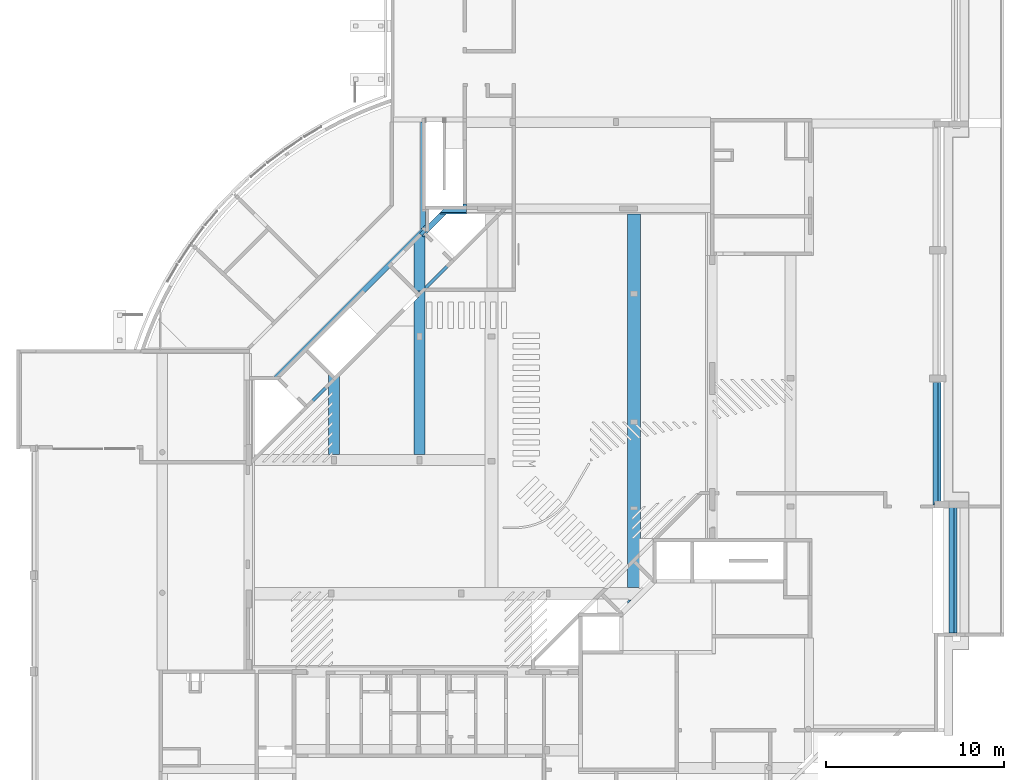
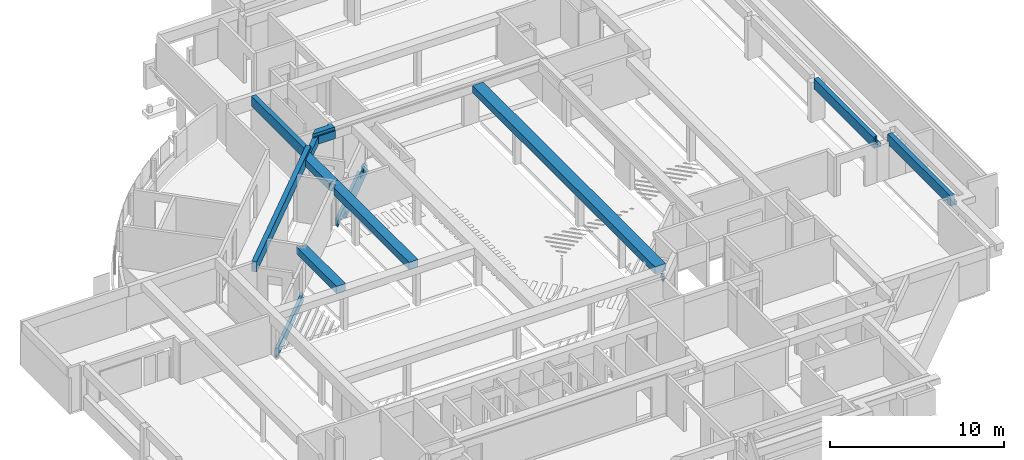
# One storey, part 13 of 22: 12 beams.
"""IFC4X3_ADD2 building model written with IfcOpenShell, lengths in millimetres."""

from ifc_helpers import new_model, si_unit, direction, frame, origin_with_axes, place, context, subcontext, project, spatial, polygons, source, transform, mapped, material, type_object, type_shapes, element, save


model = new_model("IFC4X3_ADD2")

# Units and contexts
model_context = context("Model", 3, precision=1e-05, world=origin_with_axes(), true_north=direction((0.0, 1.0)))
body_context = subcontext(model_context, "Body", "Model", "MODEL_VIEW")
ifc_project = project(units=[si_unit("LENGTHUNIT", "METRE", prefix="MILLI"), si_unit("AREAUNIT", "SQUARE_METRE"), si_unit("VOLUMEUNIT", "CUBIC_METRE"), si_unit("PLANEANGLEUNIT", "RADIAN"), si_unit("TIMEUNIT", "SECOND"), si_unit("MASSUNIT", "GRAM")], contexts=[model_context])

# Site, building, storey
site_placement = place(None, origin_with_axes())
site = spatial("IfcSite", under=ifc_project, at=site_placement, Name="Site", CompositionType="ELEMENT")
building_placement = place(site_placement, origin_with_axes())
building = spatial("IfcBuilding", under=site, at=building_placement, Name="IFC Building Story")
storey_placement = place(building_placement, frame((0.0, 0.0, -3240.0), z_axis=(0.0, 0.0, 1.0), x_axis=(1.0, 0.0, 0.0)))
storey = spatial("IfcBuildingStorey", under=building, at=storey_placement, Name="K10", Elevation=-3240.0)

# Beams
ifc_material = material(Name="BB_Beton_Bestaand")
beam_type_1 = type_object("IfcBeamType", Name="BB_XX_Betonbalk_ rechthoekig_ center-center_SFB_600 x 500 mm39", PredefinedType="NOTDEFINED")
shared_shape_1 = source(origin_with_axes(), body_context, "Body", "Tessellation", [
    polygons([(0.0, 0.0, 500.0), (0.0, 0.0, 0.0), (600.000000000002, 0.0, 0.0), (600.000000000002, 0.0, 500.0), (1.73258740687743e-11, 9193.3463695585, 500.0), (600.000000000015, 9193.3463695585, 500.0), (600.000000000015, 9193.3463695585, 0.0), (1.29944055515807e-11, 9193.3463695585, 0.0), (1.73258740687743e-11, 8600.30303802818, 500.0), (1.29944055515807e-11, 8600.30303802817, 0.0), (257.338918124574, 8857.64195615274, 0.0), (1.29944055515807e-11, 9114.9808742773, 0.0), (1.29944055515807e-11, 9114.9808742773, 500.0), (257.338918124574, 8857.64195615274, 500.0)], [[[1, 2, 3, 4]], [[5, 6, 7, 8]], [[2, 1, 9, 10]], [[11, 12, 8]], [[11, 8, 7]], [[11, 7, 3]], [[3, 2, 10]], [[3, 10, 11]], [[4, 3, 7, 6]], [[14, 9, 1]], [[14, 1, 4]], [[4, 6, 14]], [[6, 5, 13]], [[6, 13, 14]], [[11, 14, 13, 12]], [[14, 11, 10, 9]], [[5, 8, 12, 13]]]),
])
type_shapes(beam_type_1, [shared_shape_1])
beam_1_placement = place(storey_placement, frame((-29350.0, 24810.0, 2340.0), z_axis=(0.0, 0.0, 1.0), x_axis=(1.0, 0.0, 0.0)))
element("IfcBeam", 1, at=beam_1_placement, inside=storey, type_object=beam_type_1, material=ifc_material, Name="BB_XX_Betonbalk, rechthoekig, center-center_SFB:600 x 500 mm", ObjectType="BB_XX_Betonbalk, rechthoekig, center-center_SFB:600 x 500 mm", PredefinedType="BEAM", context=body_context, shape_type="MappedRepresentation", body=[
    mapped(shared_shape_1, transform((0.0, 0.0, 0.0))),
])
beam_type_2 = type_object("IfcBeamType", Name="BB_XX_Betonbalk_ rechthoekig_ center-center_SFB_600 x 500 mm41", PredefinedType="NOTDEFINED")
shared_shape_2 = source(origin_with_axes(), body_context, "Body", "Tessellation", [
    polygons([(0.0, 0.0, 500.0), (0.0, 0.0, 0.0), (204.47721719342, 0.0, 0.0), (600.000000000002, 0.0, 0.0), (600.000000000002, 0.0, 500.0), (204.47721719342, 0.0, 500.0), (600.000000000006, 3340.0, 500.0), (600.000000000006, 3340.0, 0.0), (450.000000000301, 3340.0, 0.0), (450.000000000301, 3340.0, 500.0), (4.33146851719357e-12, 204.477217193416, 500.0), (8.66293703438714e-12, 2659.64786192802, 500.0), (1.29944055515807e-11, 2889.99999999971, 500.0), (0.0, 2889.9999999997, 0.0), (4.33146851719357e-12, 2659.64786192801, 0.0), (0.0, 204.477217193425, 0.0), (600.000000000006, 3259.64786192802, 0.0), (600.000000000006, 3118.22650569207, 0.0), (600.000000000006, 3090.94728507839, 0.0), (600.000000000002, 275.619601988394, 0.0), (600.000000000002, 19.9558202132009, 0.0), (600.000000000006, 3259.64786192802, 500.0), (600.000000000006, 3118.22650569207, 500.0), (600.000000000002, 275.619601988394, 500.0), (600.000000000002, 19.9558202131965, 500.0)], [[[3, 4, 5]], [[3, 5, 6]], [[6, 1, 2]], [[6, 2, 3]], [[7, 8, 9, 10]], [[12, 13, 14]], [[12, 14, 15]], [[15, 16, 11]], [[15, 11, 12]], [[16, 2, 1]], [[16, 1, 11]], [[15, 14, 3]], [[3, 16, 15]], [[3, 2, 16]], [[21, 4, 3]], [[3, 20, 21]], [[3, 14, 9]], [[3, 9, 19]], [[3, 19, 20]], [[9, 18, 19]], [[9, 17, 18]], [[9, 8, 17]], [[17, 8, 7]], [[17, 7, 22]], [[22, 23, 18]], [[22, 18, 17]], [[23, 19, 18]], [[23, 24, 20]], [[23, 20, 19]], [[24, 25, 21]], [[24, 21, 20]], [[25, 5, 4]], [[25, 4, 21]], [[22, 7, 10]], [[10, 23, 22]], [[10, 13, 6]], [[10, 6, 24]], [[10, 24, 23]], [[6, 25, 24]], [[6, 5, 25]], [[11, 1, 6]], [[6, 12, 11]], [[6, 13, 12]], [[10, 9, 14, 13]]]),
])
type_shapes(beam_type_2, [shared_shape_2])
beam_2_placement = place(storey_placement, frame((-29350.0, 34003.3463695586, 2340.0), z_axis=(0.0, 0.0, 1.0), x_axis=(1.0, 0.0, 0.0)))
element("IfcBeam", 2, at=beam_2_placement, inside=storey, type_object=beam_type_2, material=ifc_material, Name="BB_XX_Betonbalk, rechthoekig, center-center_SFB:600 x 500 mm", ObjectType="BB_XX_Betonbalk, rechthoekig, center-center_SFB:600 x 500 mm", PredefinedType="BEAM", context=body_context, shape_type="MappedRepresentation", body=[
    mapped(shared_shape_2, transform((0.0, 0.0, 0.0))),
])
beam_type_3 = type_object("IfcBeamType", Name="BB_XX_Betonbalk_ rechthoekig_ center-center_SFB_600 x 500 mm43", PredefinedType="NOTDEFINED")
shared_shape_3 = source(origin_with_axes(), body_context, "Body", "Tessellation", [
    polygons([(0.0, 0.0, 500.0), (0.0, 0.0, 0.0), (600.000000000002, 0.0, 0.0), (600.000000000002, 0.0, 500.0), (8.66293703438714e-12, 4680.0, 0.0), (8.66293703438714e-12, 4680.0, 500.0), (85.0191257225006, 4680.0, 500.0), (85.0191257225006, 4680.0, 0.0), (8.66293703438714e-12, 3800.26539469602, 500.0), (8.66293703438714e-12, 4066.6978102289, 500.0), (1.29944055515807e-11, 4482.17641324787, 500.0), (8.66293703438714e-12, 4482.17641324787, 0.0), (8.66293703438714e-12, 4066.69781022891, 0.0), (8.66293703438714e-12, 3800.26539469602, 0.0), (4.33146851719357e-12, 3552.81566461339, 0.0), (340.936687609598, 4424.0824381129, 0.0), (596.854249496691, 4680.0, 0.0), (600.000000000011, 4680.0, 0.0), (600.000000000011, 4400.3030380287, 0.0), (600.000000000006, 4152.8156646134, 0.0), (600.000000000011, 4680.0, 500.0), (600.000000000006, 4400.30303802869, 500.0), (596.854249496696, 4680.0, 500.0), (340.936687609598, 4424.0824381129, 500.0)], [[[1, 2, 3, 4]], [[5, 6, 7, 8]], [[11, 6, 5]], [[11, 5, 12]], [[12, 13, 10]], [[12, 10, 11]], [[13, 14, 9]], [[13, 9, 10]], [[15, 2, 1]], [[15, 1, 9]], [[9, 14, 15]], [[12, 5, 8]], [[19, 20, 16]], [[16, 17, 18]], [[16, 18, 19]], [[16, 20, 13]], [[16, 13, 12]], [[12, 8, 16]], [[20, 14, 13]], [[20, 15, 14]], [[20, 3, 2]], [[20, 2, 15]], [[19, 18, 21]], [[19, 21, 22]], [[22, 20, 19]], [[22, 4, 3]], [[22, 3, 20]], [[22, 21, 23]], [[22, 23, 24]], [[9, 1, 4]], [[9, 4, 24]], [[24, 10, 9]], [[24, 7, 11]], [[24, 11, 10]], [[7, 6, 11]], [[4, 22, 24]], [[16, 24, 23, 17]], [[24, 16, 8, 7]], [[21, 18, 17, 23]]]),
])
type_shapes(beam_type_3, [shared_shape_3])
beam_3_placement = place(storey_placement, frame((-34150.0, 24810.0, 2340.0), z_axis=(0.0, 0.0, 1.0), x_axis=(1.0, 0.0, 0.0)))
element("IfcBeam", 3, at=beam_3_placement, inside=storey, type_object=beam_type_3, material=ifc_material, Name="BB_XX_Betonbalk, rechthoekig, center-center_SFB:600 x 500 mm", ObjectType="BB_XX_Betonbalk, rechthoekig, center-center_SFB:600 x 500 mm", PredefinedType="BEAM", context=body_context, shape_type="MappedRepresentation", body=[
    mapped(shared_shape_3, transform((0.0, 0.0, 0.0))),
])
beam_type_4 = type_object("IfcBeamType", Name="BB_XX_Betonbalk_ rechthoekig_ center-center_SFB_720 x 500 mm3", PredefinedType="NOTDEFINED")
shared_shape_4 = source(origin_with_axes(), body_context, "Body", "Tessellation", [
    polygons([(3.89832166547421e-11, 21892.1532216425, 500.0), (720.000000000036, 21892.1532216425, 500.0), (720.000000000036, 21892.1532216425, 0.0), (3.89832166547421e-11, 21892.1532216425, 0.0), (720.000000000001, 922.157287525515, 500.0), (720.000000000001, 922.157287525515, 0.0), (720.000000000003, 1898.80861551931, 0.0), (720.000000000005, 2167.5091923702, 0.0), (720.000000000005, 2658.10504815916, 0.0), (720.000000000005, 2926.80562501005, 0.0), (720.000000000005, 2933.90740929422, 0.0), (720.000000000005, 3181.39478270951, 0.0), (4.33146851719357e-12, 922.157287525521, 500.0), (4.33146851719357e-12, 922.157287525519, 0.0), (6.49720277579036e-12, 2461.39478270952, 0.0), (6.49720277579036e-12, 2213.90740929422, 0.0), (6.49720277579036e-12, 2206.80562501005, 0.0), (4.33146851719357e-12, 1938.10504815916, 0.0)], [[[1, 2, 3, 4]], [[12, 3, 2]], [[12, 2, 5]], [[5, 11, 12]], [[5, 10, 11]], [[5, 9, 10]], [[5, 8, 9]], [[5, 7, 8]], [[5, 6, 7]], [[13, 14, 6, 5]], [[18, 14, 13]], [[13, 17, 18]], [[13, 16, 17]], [[13, 15, 16]], [[13, 1, 4]], [[13, 4, 15]], [[7, 6, 14]], [[7, 14, 18]], [[18, 17, 8]], [[18, 8, 7]], [[16, 15, 9]], [[16, 9, 8]], [[8, 17, 16]], [[15, 10, 9]], [[15, 11, 10]], [[15, 12, 11]], [[15, 4, 3]], [[15, 3, 12]], [[2, 1, 13, 5]]]),
    polygons([(4.33146851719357e-12, 202.157287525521, 500.0), (4.33146851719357e-12, 202.157287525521, 0.0), (0.0, 2.16573425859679e-12, 0.0), (0.0, 2.16573425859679e-12, 500.0), (202.157287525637, 202.157287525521, 0.0), (202.157287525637, 202.157287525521, 500.0)], [[[1, 2, 3, 4]], [[3, 2, 5]], [[1, 4, 6]], [[2, 1, 6, 5]], [[4, 3, 5, 6]]]),
])
type_shapes(beam_type_4, [shared_shape_4])
beam_4_placement = place(storey_placement, frame((-17360.0, 16437.8427124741, 2340.0), z_axis=(0.0, 0.0, 1.0), x_axis=(1.0, 0.0, 0.0)))
element("IfcBeam", 4, at=beam_4_placement, inside=storey, type_object=beam_type_4, material=ifc_material, Name="BB_XX_Betonbalk, rechthoekig, center-center_SFB:720 x 500 mm", ObjectType="BB_XX_Betonbalk, rechthoekig, center-center_SFB:720 x 500 mm", PredefinedType="BEAM", context=body_context, shape_type="MappedRepresentation", body=[
    mapped(shared_shape_4, transform((0.0, 0.0, 0.0))),
])
beam_type_5 = type_object("IfcBeamType", Name="BB_XX_Betonbalk_ rechthoekig_ center-center_SFB_300 x 720 mm1", PredefinedType="NOTDEFINED")
shared_shape_5 = source(origin_with_axes(), body_context, "Body", "Tessellation", [
    polygons([(8704.48447640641, 8492.35244205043, -2.09805506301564e-12), (8704.48447640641, 8492.35244205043, -200.0), (8704.48447640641, 8492.35244205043, -720.000000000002), (8563.06312016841, 8633.77379828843, -720.000000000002), (8541.11065760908, 8655.72626084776, -720.000000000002), (8492.35244205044, 8704.48447640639, -720.000000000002), (8492.35244205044, 8704.48447640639, -2.13189466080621e-12), (8541.11065760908, 8655.72626084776, -2.09805506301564e-12), (8563.06312016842, 8633.77379828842, -2.09805506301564e-12), (212.132034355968, 4.33146851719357e-12, 0.0), (196.147642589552, 15.9843917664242, 0.0), (70.7106781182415, 141.421356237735, 0.0), (4.33146851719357e-12, 212.132034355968, 0.0), (4.33146851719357e-12, 212.132034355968, -720.0), (196.147642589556, 15.9843917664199, -720.0), (212.132034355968, 4.33146851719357e-12, -720.0), (212.132034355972, 4.33146851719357e-12, -200.0), (8084.80996542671, 7872.67793107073, -1.89501747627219e-12), (384.417118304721, 172.285083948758, 0.0), (228.116426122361, 15.9843917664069, -720.0), (428.116426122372, 215.984391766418, -720.0), (8343.1881197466, 8131.05608539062, -720.000000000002), (7891.1106576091, 7678.97862325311, -700.0), (7891.1106576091, 7678.97862325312, -200.0), (8491.11065760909, 8278.97862325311, -200.0), (8491.11065760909, 8278.97862325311, -700.0), (8343.1881197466, 8131.05608539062, -700.0), (3.85235741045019, 215.984391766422, -720.0), (3622.46047701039, 3834.59251136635, -720.000000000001), (3756.81076543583, 3968.9427997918, -720.000000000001), (8241.11065760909, 8453.24269196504, -720.000000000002), (3.85235741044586, 215.984391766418, 0.0), (8241.11065760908, 8453.24269196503, -2.03037586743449e-12), (8491.1106576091, 8359.3307613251, -700.0), (8491.1106576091, 8359.3307613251, -200.0), (8341.11065760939, 8359.3307613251, -200.0), (8341.11065760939, 8359.3307613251, -700.0), (7891.1106576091, 7909.3307613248, -700.0), (7891.1106576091, 7909.3307613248, -200.0)], [[[5, 6, 7]], [[5, 7, 2]], [[2, 4, 5]], [[2, 3, 4]], [[9, 1, 2]], [[2, 8, 9]], [[2, 7, 8]], [[12, 13, 14]], [[14, 15, 11]], [[14, 11, 12]], [[17, 10, 11]], [[11, 15, 16]], [[11, 16, 17]], [[20, 21, 19]], [[20, 19, 17]], [[17, 16, 20]], [[19, 10, 17]], [[24, 18, 19]], [[19, 21, 23]], [[19, 23, 24]], [[21, 22, 23]], [[25, 2, 1]], [[1, 18, 24]], [[1, 24, 25]], [[26, 27, 22]], [[26, 22, 3]], [[3, 2, 25]], [[3, 25, 26]], [[27, 23, 22]], [[15, 14, 20]], [[20, 16, 15]], [[14, 21, 20]], [[14, 4, 22]], [[14, 22, 21]], [[4, 3, 22]], [[14, 5, 4]], [[31, 6, 5]], [[5, 30, 31]], [[5, 29, 30]], [[5, 28, 29]], [[5, 14, 28]], [[28, 14, 13]], [[28, 13, 32]], [[32, 29, 28]], [[32, 30, 29]], [[32, 33, 31]], [[32, 31, 30]], [[33, 7, 6]], [[33, 6, 31]], [[32, 13, 12]], [[12, 8, 33]], [[12, 33, 32]], [[8, 7, 33]], [[12, 9, 8]], [[19, 18, 1]], [[1, 11, 19]], [[11, 10, 19]], [[1, 9, 12]], [[1, 12, 11]], [[34, 35, 36, 37]], [[38, 39, 24, 23]], [[27, 26, 34]], [[27, 34, 37]], [[37, 38, 23]], [[37, 23, 27]], [[35, 34, 26, 25]], [[36, 35, 25]], [[36, 25, 24]], [[36, 24, 39]], [[37, 36, 39, 38]]]),
])
type_shapes(beam_type_5, [shared_shape_5])
beam_5_placement = place(storey_placement, frame((-37241.1106576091, 28984.0156082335, 3040.0), z_axis=(0.0, 0.0, 1.0), x_axis=(1.0, 0.0, 0.0)))
element("IfcBeam", 5, at=beam_5_placement, inside=storey, type_object=beam_type_5, material=ifc_material, Name="BB_XX_Betonbalk, rechthoekig, center-center_SFB:300 x 720 mm", ObjectType="BB_XX_Betonbalk, rechthoekig, center-center_SFB:300 x 720 mm", PredefinedType="BEAM", context=body_context, shape_type="MappedRepresentation", body=[
    mapped(shared_shape_5, transform((0.0, 0.0, 0.0))),
])
beam_type_6 = type_object("IfcBeamType", Name="BB_XX_Betonbalk_ rechthoekig_ center-center_SFB_300 x 720 mm3", PredefinedType="NOTDEFINED")
shared_shape_6 = source(origin_with_axes(), body_context, "Body", "Tessellation", [
    polygons([(300.000000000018, 6062.74169980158, 720.000000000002), (300.000000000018, 6062.74169980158, 2.16573425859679e-12), (1.73258740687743e-11, 6062.74169980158, 2.03037586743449e-12), (1.73258740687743e-11, 6062.74169980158, 720.000000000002), (300.000000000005, 202.483568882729, 720.000000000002), (300.000000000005, 202.483568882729, 2.03037586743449e-12), (300.000000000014, 1030.02547259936, 2.03037586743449e-12), (300.000000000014, 1162.73763391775, 2.03037586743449e-12), (251.241784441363, 251.241784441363, 1.21822552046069e-12), (4.33146851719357e-12, 1.29944055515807e-11, 2.03037586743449e-12), (4.33146851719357e-12, 1.29944055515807e-11, 720.000000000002), (251.241784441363, 251.241784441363, 720.000000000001)], [[[1, 2, 3, 4]], [[8, 2, 1]], [[8, 1, 5]], [[5, 7, 8]], [[5, 6, 7]], [[9, 10, 7]], [[7, 6, 9]], [[10, 8, 7]], [[10, 3, 2]], [[10, 2, 8]], [[4, 3, 10, 11]], [[12, 5, 1]], [[1, 4, 11]], [[1, 11, 12]], [[12, 9, 6, 5]], [[9, 12, 11, 10]]]),
])
type_shapes(beam_type_6, [shared_shape_6])
beam_6_placement = place(storey_placement, frame((-29000.0, 37437.2583001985, 2320.0), z_axis=(0.0, 0.0, 1.0), x_axis=(1.0, 0.0, 0.0)))
element("IfcBeam", 6, at=beam_6_placement, inside=storey, type_object=beam_type_6, material=ifc_material, Name="BB_XX_Betonbalk, rechthoekig, center-center_SFB:300 x 720 mm", ObjectType="BB_XX_Betonbalk, rechthoekig, center-center_SFB:300 x 720 mm", PredefinedType="BEAM", context=body_context, shape_type="MappedRepresentation", body=[
    mapped(shared_shape_6, transform((0.0, 0.0, 0.0))),
])
beam_type_7 = type_object("IfcBeamType", Name="BB_XX_Betonbalk_ L-vorm_ center-center_SFB_570 x 750 mm - 100 x 200 mm3", PredefinedType="NOTDEFINED")
shared_shape_7 = source(origin_with_axes(), body_context, "Body", "Tessellation", [
    polygons([(1485.00406588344, 99.9999999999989, 0.0), (1485.00406588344, 99.9999999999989, -200.0), (1485.00406588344, -4.33146851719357e-12, -200.0), (1485.00406588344, -4.33146851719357e-12, -750.0), (1485.00406588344, 269.999999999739, -750.0), (1485.00406588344, 469.999999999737, -750.0), (1485.00406588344, 570.0, -750.0), (1485.00406588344, 570.0, 0.0), (343.427124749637, 4.33146851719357e-12, -750.0), (1.29944055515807e-11, 8.66293703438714e-12, -750.0), (1.29944055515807e-11, 80.8369439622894, -750.0), (189.163056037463, 269.999999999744, -750.0), (389.163056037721, 470.000000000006, -750.0), (1285.00406588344, 470.000000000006, -750.0), (1285.00406588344, 570.0, -750.0), (389.163056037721, 470.000000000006, 0.0), (1.29944055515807e-11, 80.8369439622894, -200.0), (19.1630560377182, 100.000000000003, -200.0), (19.1630560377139, 100.000000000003, 0.0), (189.16305603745, 269.999999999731, 0.0), (1285.00406588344, 470.000000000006, 0.0), (1285.00406588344, 570.0, 0.0), (1.29944055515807e-11, 8.66293703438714e-12, -200.0), (343.427124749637, 4.33146851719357e-12, -200.0), (302.005768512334, 100.000000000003, 0.0), (302.005768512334, 100.000000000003, -200.0)], [[[2, 3, 4]], [[2, 4, 5]], [[6, 7, 8]], [[8, 1, 2]], [[8, 2, 5]], [[8, 5, 6]], [[9, 10, 11]], [[9, 11, 12]], [[12, 13, 5]], [[12, 5, 4]], [[12, 4, 9]], [[14, 6, 5]], [[5, 13, 14]], [[14, 15, 7]], [[14, 7, 6]], [[18, 19, 20]], [[20, 12, 11]], [[20, 11, 18]], [[11, 17, 18]], [[20, 16, 13]], [[20, 13, 12]], [[13, 16, 21, 14]], [[14, 21, 22, 15]], [[10, 23, 17, 11]], [[24, 23, 10]], [[24, 10, 9]], [[9, 4, 3]], [[9, 3, 24]], [[8, 7, 15, 22]], [[20, 19, 25]], [[25, 1, 21]], [[25, 21, 16]], [[25, 16, 20]], [[1, 8, 21]], [[8, 22, 21]], [[25, 19, 18]], [[25, 18, 26]], [[26, 2, 1]], [[26, 1, 25]], [[26, 18, 17]], [[26, 17, 23]], [[26, 23, 24]], [[24, 3, 2]], [[24, 2, 26]]]),
])
type_shapes(beam_type_7, [shared_shape_7])
beam_7_placement = place(storey_placement, frame((-27885.0040658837, 38329.9959341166, 3040.0), z_axis=(0.0, 0.0, 1.0), x_axis=(1.0, 0.0, 0.0)))
element("IfcBeam", 7, at=beam_7_placement, inside=storey, type_object=beam_type_7, material=ifc_material, Name="BB_XX_Betonbalk, L-vorm, center-center_SFB:570 x 750 mm - 100 x 200 mm", ObjectType="BB_XX_Betonbalk, L-vorm, center-center_SFB:570 x 750 mm - 100 x 200 mm", PredefinedType="BEAM", context=body_context, shape_type="MappedRepresentation", body=[
    mapped(shared_shape_7, transform((0.0, 0.0, 0.0))),
])
beam_type_8 = type_object("IfcBeamType", Name="BB_XX_Betonbalk_ rechthoekig_ center-center_SFB_300 x 550 mm", PredefinedType="NOTDEFINED")
shared_shape_8 = source(origin_with_axes(), body_context, "Body", "Tessellation", [
    polygons([(4.33146851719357e-12, 212.132034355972, 3.92539334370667e-12), (212.132034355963, 4.33146851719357e-12, 3.92539334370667e-12), (212.132034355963, 4.33146851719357e-12, 50.0000000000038), (141.421356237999, 70.7106781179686, 50.0000000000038), (141.421356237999, 70.7106781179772, 30.000000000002), (-4.33146851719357e-12, 212.132034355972, 30.0000000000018), (1154.33982821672, 1366.4718625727, 4.19611012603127e-12), (529.343894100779, 741.47592845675, 3.92539334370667e-12), (339.343894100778, 551.47592845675, 3.92539334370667e-12), (310.790722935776, 522.922757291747, 3.92539334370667e-12), (197.922537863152, 410.054572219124, 3.92539334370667e-12), (139.34389410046, 351.475928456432, 30.0000000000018), (310.790722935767, 522.922757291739, 30.0000000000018), (361.296356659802, 573.428391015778, 30.0000000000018), (361.296356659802, 573.428391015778, 550.000000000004), (1154.33982821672, 1366.4718625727, 550.000000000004), (1154.33982821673, 1285.6349186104, 2.70716782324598e-12), (1497.76695296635, 1285.63491861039, 4.19611012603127e-12), (529.343894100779, 317.211859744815, 3.92539334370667e-12), (527.766952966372, 315.634918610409, 3.92539334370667e-12), (410.054572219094, 197.92253786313, 3.92539334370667e-12), (275.704283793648, 63.572249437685, 3.92539334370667e-12), (1497.76695296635, 1285.63491861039, 550.000000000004), (289.343894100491, 77.2118597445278, 550.000000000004), (289.343894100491, 77.2118597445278, 290.000000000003), (289.343894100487, 77.2118597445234, 50.0000000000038), (275.704283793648, 63.572249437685, 50.0000000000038), (1154.33982821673, 1285.6349186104, 550.000000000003), (502.7177128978, 432.007034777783, 550.000000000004), (289.343894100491, 218.633215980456, 550.000000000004), (289.343894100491, 218.633215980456, 50.0000000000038), (502.717712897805, 432.007034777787, 30.0000000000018)], [[[5, 6, 1]], [[5, 1, 2]], [[2, 3, 5]], [[3, 4, 5]], [[11, 1, 6]], [[11, 6, 12]], [[12, 13, 10]], [[12, 10, 11]], [[13, 14, 9]], [[13, 9, 10]], [[14, 15, 8]], [[8, 9, 14]], [[15, 16, 7]], [[15, 7, 8]], [[17, 18, 19]], [[17, 19, 8]], [[8, 7, 17]], [[19, 9, 8]], [[19, 20, 10]], [[19, 10, 9]], [[20, 21, 11]], [[20, 11, 10]], [[22, 2, 1]], [[1, 11, 21]], [[1, 21, 22]], [[19, 18, 23]], [[19, 23, 24]], [[24, 20, 19]], [[24, 21, 20]], [[26, 27, 22]], [[26, 22, 21]], [[21, 25, 26]], [[21, 24, 25]], [[27, 3, 2]], [[27, 2, 22]], [[28, 16, 15]], [[29, 30, 24]], [[29, 24, 23]], [[23, 28, 15]], [[23, 15, 29]], [[25, 24, 30]], [[25, 30, 31]], [[31, 26, 25]], [[28, 17, 7, 16]], [[17, 28, 23, 18]], [[27, 26, 31]], [[27, 31, 4]], [[4, 3, 27]], [[14, 32, 29, 15]], [[31, 30, 29]], [[31, 29, 32]], [[32, 5, 31]], [[5, 4, 31]], [[12, 6, 5]], [[5, 32, 13]], [[5, 13, 12]], [[32, 14, 13]]]),
])
type_shapes(beam_type_8, [shared_shape_8])
beam_8_placement = place(storey_placement, frame((-29039.3438941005, 37044.3610155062, 2290.0), z_axis=(0.0, 0.0, 1.0), x_axis=(1.0, 0.0, 0.0)))
element("IfcBeam", 8, at=beam_8_placement, inside=storey, type_object=beam_type_8, material=ifc_material, Name="BB_XX_Betonbalk, rechthoekig, center-center_SFB:300 x 550 mm", ObjectType="BB_XX_Betonbalk, rechthoekig, center-center_SFB:300 x 550 mm", PredefinedType="BEAM", context=body_context, shape_type="MappedRepresentation", body=[
    mapped(shared_shape_8, transform((0.0, 0.0, 0.0))),
])
beam_type_9 = type_object("IfcBeamType", Name="BB_XX_Betonbalk_ L-vorm_ center-center_SFB_460 x 720 mm - 170 x 510 mm", PredefinedType="NOTDEFINED")
shared_shape_9 = source(origin_with_axes(), body_context, "Body", "Tessellation", [
    polygons([(460.0, 0.0, 209.999999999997), (439.999999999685, 0.0, 209.999999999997), (289.999999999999, 0.0, 209.999999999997), (289.999999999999, 0.0, 219.999999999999), (99.9999999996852, 0.0, 219.999999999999), (99.9999999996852, 0.0, 459.999999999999), (99.9999999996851, 0.0, 720.0), (0.0, 0.0, 720.0), (0.0, 0.0, 459.999999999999), (0.0, 0.0, 0.0), (100.000000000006, 0.0, 0.0), (460.0, 0.0, 0.0), (460.0, 0.0, 207.795936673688), (0.0, 19.9999999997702, 0.0), (1.11670672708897e-11, 6904.99999999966, 0.0), (460.000000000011, 6904.99999999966, 0.0), (460.0, 229.999999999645, 0.0), (1.11332276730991e-11, 6904.99999999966, 720.0), (290.00000000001, 6904.99999999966, 720.0), (290.00000000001, 6904.99999999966, 209.999999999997), (460.000000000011, 6904.99999999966, 209.999999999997), (99.9999999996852, 150.000000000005, 720.0), (289.999999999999, 150.000000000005, 720.0), (289.999999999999, 170.000000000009, 720.0), (290.00000000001, 6879.99999999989, 720.0), (289.999999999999, 150.000000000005, 219.999999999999), (289.999999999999, 169.999999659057, 209.999999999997), (99.9999999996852, 150.000000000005, 219.999999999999)], [[[6, 7, 8]], [[6, 8, 9]], [[9, 10, 5]], [[9, 5, 6]], [[10, 3, 4]], [[10, 4, 5]], [[11, 12, 2]], [[11, 2, 3]], [[3, 10, 11]], [[13, 1, 2]], [[2, 12, 13]], [[14, 15, 11]], [[11, 10, 14]], [[17, 12, 11]], [[11, 15, 16]], [[11, 16, 17]], [[20, 21, 16]], [[20, 16, 15]], [[15, 18, 19]], [[15, 19, 20]], [[17, 16, 21]], [[17, 21, 13]], [[13, 12, 17]], [[21, 1, 13]], [[9, 8, 14]], [[14, 10, 9]], [[8, 18, 15]], [[8, 15, 14]], [[25, 19, 18]], [[18, 22, 24]], [[18, 24, 25]], [[22, 23, 24]], [[18, 8, 22]], [[8, 7, 22]], [[26, 4, 3]], [[26, 3, 27]], [[27, 24, 23]], [[27, 23, 26]], [[27, 20, 25]], [[27, 25, 24]], [[20, 19, 25]], [[2, 1, 21]], [[27, 3, 2]], [[2, 21, 20]], [[2, 20, 27]], [[26, 28, 5, 4]], [[28, 26, 23, 22]], [[6, 5, 28]], [[28, 22, 7]], [[28, 7, 6]]]),
])
type_shapes(beam_type_9, [shared_shape_9])
beam_9_placement = place(storey_placement, frame((-195.0, 21975.0, 2320.0), z_axis=(0.0, 0.0, 1.0), x_axis=(1.0, 0.0, 0.0)))
element("IfcBeam", 9, at=beam_9_placement, inside=storey, type_object=beam_type_9, material=ifc_material, Name="BB_XX_Betonbalk, L-vorm, center-center_SFB:460 x 720 mm - 170 x 510 mm", ObjectType="BB_XX_Betonbalk, L-vorm, center-center_SFB:460 x 720 mm - 170 x 510 mm", PredefinedType="BEAM", context=body_context, shape_type="MappedRepresentation", body=[
    mapped(shared_shape_9, transform((0.0, 0.0, 0.0))),
])
beam_type_10 = type_object("IfcBeamType", Name="BB_XX_Betonbalk_ L-vorm_ center-center_SFB_460 x 720 mm - 170 x 510 mm5", PredefinedType="NOTDEFINED")
shared_shape_10 = source(origin_with_axes(), body_context, "Body", "Tessellation", [
    polygons([(289.999999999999, 2.16573425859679e-12, 720.0), (0.0, 2.16573425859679e-12, 720.0), (0.0, 2.16573425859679e-12, 0.0), (460.0, 2.16573425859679e-12, 0.0), (460.0, 0.0, 198.17040619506), (460.0, 2.16573425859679e-12, 209.999999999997), (289.999999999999, 2.16573425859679e-12, 209.999999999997), (289.999999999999, 0.0, 399.999999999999), (290.00000000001, 7180.00000000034, 720.0), (290.00000000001, 7180.00000000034, 400.0), (290.00000000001, 7180.00000000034, 209.999999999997), (460.000000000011, 7180.00000000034, 209.999999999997), (460.000000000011, 7180.00000000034, 198.17040619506), (460.000000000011, 7180.00000000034, 191.431581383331), (1.15054632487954e-11, 7180.00000000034, 191.431581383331), (1.15054632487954e-11, 7180.00000000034, 203.090121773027), (1.15054632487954e-11, 7180.00000000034, 403.101559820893), (1.15054632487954e-11, 7180.00000000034, 720.0), (460.000000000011, 7010.10254526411, 0.0), (460.000000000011, 7010.10254526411, 191.431581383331), (1.10993880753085e-11, 7009.99999005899, 0.0), (1.10993880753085e-11, 6990.00000000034, 720.0), (1.13701048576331e-11, 7160.00000000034, 720.0), (0.0297261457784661, 7010.00000331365, 191.431581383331), (290.00000000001, 6990.00000000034, 720.0), (290.00000000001, 7160.00000000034, 720.0)], [[[8, 1, 2]], [[2, 3, 7]], [[2, 7, 8]], [[3, 5, 7]], [[5, 6, 7]], [[3, 4, 5]], [[13, 14, 11]], [[11, 12, 13]], [[16, 17, 10]], [[16, 10, 11]], [[11, 14, 15]], [[11, 15, 16]], [[17, 18, 9]], [[17, 9, 10]], [[20, 14, 13]], [[20, 13, 5]], [[5, 4, 19]], [[5, 19, 20]], [[13, 12, 6]], [[13, 6, 5]], [[4, 3, 21, 19]], [[16, 15, 23]], [[23, 17, 16]], [[23, 18, 17]], [[24, 21, 22]], [[22, 23, 15]], [[22, 15, 24]], [[21, 3, 2]], [[21, 2, 22]], [[26, 9, 18]], [[26, 18, 23]], [[23, 22, 25]], [[23, 25, 26]], [[22, 2, 1]], [[22, 1, 25]], [[8, 7, 11]], [[8, 11, 10]], [[25, 1, 8]], [[25, 8, 10]], [[10, 26, 25]], [[10, 9, 26]], [[7, 6, 12, 11]], [[20, 24, 15, 14]], [[24, 20, 19, 21]]]),
])
type_shapes(beam_type_10, [shared_shape_10])
beam_10_placement = place(storey_placement, frame((705.0, 14795.0, 2320.0), z_axis=(0.0, 0.0, 1.0), x_axis=(1.0, 0.0, 0.0)))
element("IfcBeam", 10, at=beam_10_placement, inside=storey, type_object=beam_type_10, material=ifc_material, Name="BB_XX_Betonbalk, L-vorm, center-center_SFB:460 x 720 mm - 170 x 510 mm", ObjectType="BB_XX_Betonbalk, L-vorm, center-center_SFB:460 x 720 mm - 170 x 510 mm", PredefinedType="BEAM", context=body_context, shape_type="MappedRepresentation", body=[
    mapped(shared_shape_10, transform((0.0, 0.0, 0.0))),
])
beam_type_11 = type_object("IfcBeamType", Name="BB_XX_Betonbalk_ rechthoekig_ center-center_SFB_190 x 600 mm", PredefinedType="NOTDEFINED")
shared_shape_11 = source(origin_with_axes(), body_context, "Body", "Tessellation", [
    polygons([(8.66293703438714e-12, 134.350288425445, -600.000000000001), (134.35028842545, 4.33146851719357e-12, -600.000000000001), (134.350288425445, 4.33146851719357e-12, -500.000000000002), (8.66293703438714e-12, 134.350288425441, -500.000000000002), (4187.18735763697, 4052.83706921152, -500.000000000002), (4187.18735763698, 4052.83706921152, -210.0), (4187.18735763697, 4052.83706921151, 0.0), (276.921962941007, 142.571674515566, 0.0), (276.921962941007, 142.571674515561, -210.0), (276.921962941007, 142.571674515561, -500.000000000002), (3022.00842468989, 2887.65813626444, -600.000000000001), (3021.99532954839, 2887.67123140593, -500.000000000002), (2887.65813626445, 3022.00842468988, -600.000000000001), (4187.18735763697, 4321.5376460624, 0.0), (4187.18735763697, 4321.5376460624, -210.0), (4187.18735763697, 4321.5376460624, -500.000000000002), (2887.64504112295, 3022.02151983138, -500.000000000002), (8.22138609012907, 142.571674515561, -500.000000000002), (8.22138609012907, 142.571674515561, 0.0), (2800.22286435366, 2934.57315277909, 0.0)], [[[1, 2, 3, 4]], [[6, 7, 8]], [[6, 8, 9]], [[10, 3, 2]], [[12, 5, 6]], [[6, 9, 10]], [[6, 10, 12]], [[10, 2, 11]], [[10, 11, 12]], [[2, 1, 13, 11]], [[18, 17, 13]], [[18, 13, 1]], [[1, 4, 18]], [[17, 18, 19]], [[17, 19, 15]], [[15, 16, 17]], [[20, 14, 15]], [[15, 19, 20]], [[20, 19, 8]], [[20, 8, 7]], [[7, 14, 20]], [[6, 5, 16]], [[6, 16, 15]], [[15, 14, 7]], [[15, 7, 6]], [[10, 18, 4, 3]], [[9, 8, 19]], [[19, 18, 10]], [[19, 10, 9]], [[17, 12, 11, 13]], [[12, 17, 16, 5]]]),
])
type_shapes(beam_type_11, [shared_shape_11])
beam_11_placement = place(storey_placement, frame((-38337.187357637, 24557.4283254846, 0.0), z_axis=(0.0, 0.0, 1.0), x_axis=(1.0, 0.0, 0.0)))
element("IfcBeam", 11, at=beam_11_placement, inside=storey, type_object=beam_type_11, material=ifc_material, Name="BB_XX_Betonbalk, rechthoekig, center-center_SFB:190 x 600 mm", ObjectType="BB_XX_Betonbalk, rechthoekig, center-center_SFB:190 x 600 mm", PredefinedType="BEAM", context=body_context, shape_type="MappedRepresentation", body=[
    mapped(shared_shape_11, transform((0.0, 0.0, 0.0))),
])
beam_type_12 = type_object("IfcBeamType", Name="BB_XX_Betonbalk_ rechthoekig_ center-center_SFB_190 x 1100 mm", PredefinedType="NOTDEFINED")
shared_shape_12 = source(origin_with_axes(), body_context, "Body", "Tessellation", [
    polygons([(6.51839753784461, 0.0, 1100.0), (0.0, 6.51839753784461, 1100.0), (0.0, 6.51839753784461, 890.0), (0.0, 6.51839753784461, 600.000000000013), (6.51839753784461, 4.33146851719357e-12, 600.000000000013), (6.51839753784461, 0.0, 890.0), (3500.0, 3493.48160246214, 600.0), (3500.0, 3493.48160246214, 890.0), (3500.0, 3493.48160246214, 1100.0), (1304.91653995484, 1298.39814241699, 600.000000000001), (1304.91653995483, 1298.39814241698, 0.0), (4599.73053942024, 4593.21214188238, 1.08286712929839e-12), (4599.73053942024, 4593.21214188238, 600.0), (4489.73460530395, 4483.21620776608, 600.0), (4489.73460530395, 4483.21620776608, 890.0), (4000.00000000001, 3993.48160246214, 890.0), (4000.0, 3993.48160246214, 600.0), (1170.56625152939, 1432.74843084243, 0.0), (1407.66384154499, 1669.84602085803, 0.0), (1524.11964212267, 1786.30182143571, 0.0), (1542.01412997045, 1804.19630928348, 0.0), (4331.02996256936, 4593.21214188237, 1.08286712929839e-12), (3500.0, 3762.18217931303, 1100.0), (3500.0, 3762.18217931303, 600.0), (4000.00000000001, 4262.18217931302, 600.0), (4000.00000000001, 4262.18217931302, 890.0), (4221.03402845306, 4483.21620776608, 890.0), (4221.03402845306, 4483.21620776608, 600.0), (4331.02996256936, 4593.21214188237, 600.0), (1170.56625152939, 1432.74843084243, 600.000000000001), (0.0, 262.182179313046, 600.000000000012), (4.33146851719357e-12, 262.182179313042, 890.0), (0.0, 262.182179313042, 1100.0), (1660.51498128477, 1922.6971605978, 1100.0)], [[[3, 4, 5]], [[3, 5, 6]], [[6, 1, 2]], [[6, 2, 3]], [[8, 9, 1]], [[1, 7, 8]], [[10, 11, 12]], [[10, 12, 7]], [[7, 6, 10]], [[6, 5, 10]], [[7, 1, 6]], [[14, 15, 16]], [[17, 7, 12]], [[12, 14, 17]], [[14, 16, 17]], [[12, 13, 14]], [[21, 22, 12]], [[21, 12, 11]], [[11, 20, 21]], [[11, 19, 20]], [[11, 18, 19]], [[28, 29, 22]], [[22, 25, 28]], [[25, 26, 27]], [[25, 27, 28]], [[22, 24, 25]], [[32, 33, 34]], [[32, 34, 30]], [[30, 31, 32]], [[34, 19, 30]], [[19, 18, 30]], [[34, 20, 19]], [[34, 21, 20]], [[24, 22, 21]], [[24, 21, 34]], [[34, 23, 24]], [[34, 33, 2]], [[34, 2, 1]], [[1, 9, 34]], [[9, 23, 34]], [[14, 28, 27, 15]], [[28, 14, 13, 29]], [[8, 7, 24]], [[8, 24, 23]], [[23, 9, 8]], [[24, 7, 17, 25]], [[25, 17, 16, 26]], [[32, 31, 4]], [[32, 4, 3]], [[3, 2, 33]], [[3, 33, 32]], [[10, 30, 18, 11]], [[30, 10, 5]], [[30, 5, 4]], [[30, 4, 31]], [[16, 15, 27, 26]], [[13, 12, 22, 29]]]),
])
type_shapes(beam_type_12, [shared_shape_12])
beam_12_placement = place(storey_placement, frame((-28750.0, 34016.783792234, -1100.0), z_axis=(0.0, 0.0, 1.0), x_axis=(1.0, 0.0, 0.0)))
element("IfcBeam", 12, at=beam_12_placement, inside=storey, type_object=beam_type_12, material=ifc_material, Name="BB_XX_Betonbalk, rechthoekig, center-center_SFB:190 x 1100 mm", ObjectType="BB_XX_Betonbalk, rechthoekig, center-center_SFB:190 x 1100 mm", PredefinedType="BEAM", context=body_context, shape_type="MappedRepresentation", body=[
    mapped(shared_shape_12, transform((0.0, 0.0, 0.0))),
])

save(model, "model.ifc")
